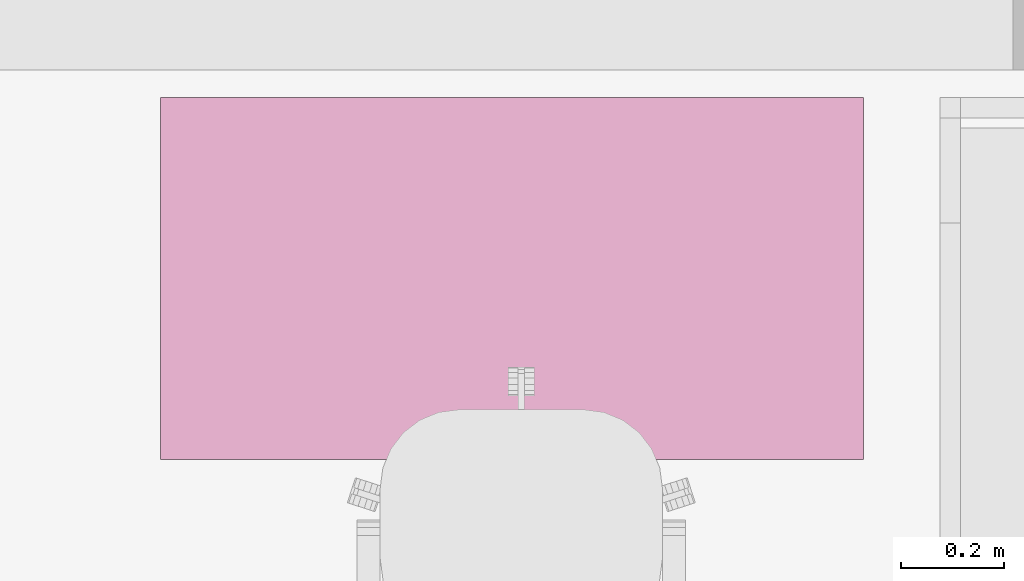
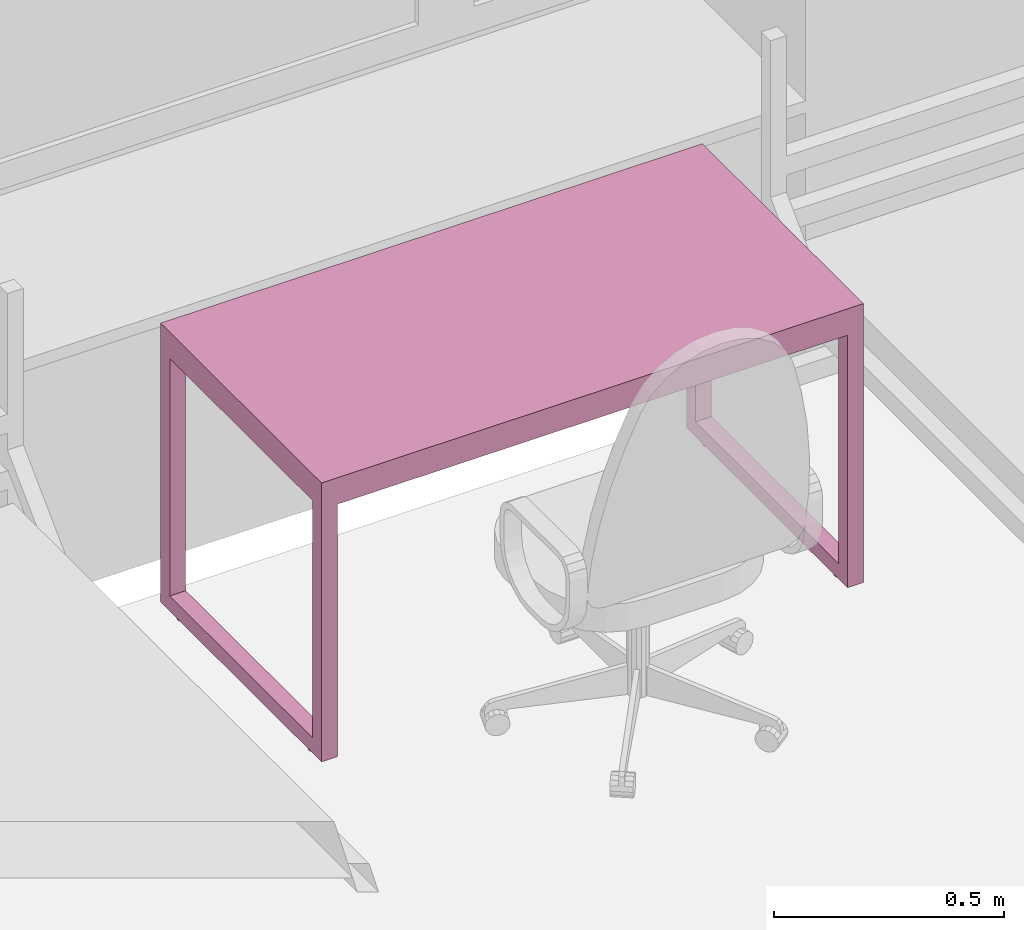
# One storey, part 48 of 48: 1 furnishing.
"""IFC2X3 building model written with IfcOpenShell, lengths in millimetres."""

from ifc_helpers import new_model, entity, si_unit, converted_unit, derived_unit, direction, frame, origin, place, context, subcontext, project, spatial, faceted_brep, source, transform, mapped, material, material_list, type_object, type_shapes, element, save


model = new_model("IFC2X3")

# Units and contexts
model_context = context("Model", 3, precision=0.01, world=origin(), true_north=direction((6.12303176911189e-17, 1.0)))
body_context = subcontext(model_context, "Body", "Model", "MODEL_VIEW")
ifc_project = project(units=[si_unit("LENGTHUNIT", "METRE", prefix="MILLI"), si_unit("AREAUNIT", "SQUARE_METRE"), si_unit("VOLUMEUNIT", "CUBIC_METRE"), converted_unit("PLANEANGLEUNIT", "DEGREE", entity("IfcRatioMeasure", 0.0174532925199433), si_unit("PLANEANGLEUNIT", "RADIAN"), dimensions=[0, 0, 0, 0, 0, 0, 0]), si_unit("MASSUNIT", "GRAM", prefix="KILO"), derived_unit("MASSDENSITYUNIT", [(si_unit("MASSUNIT", "GRAM", prefix="KILO"), 1), (si_unit("LENGTHUNIT", "METRE"), -3)]), si_unit("TIMEUNIT", "SECOND"), si_unit("FREQUENCYUNIT", "HERTZ"), si_unit("THERMODYNAMICTEMPERATUREUNIT", "DEGREE_CELSIUS"), derived_unit("THERMALTRANSMITTANCEUNIT", [(si_unit("MASSUNIT", "GRAM", prefix="KILO"), 1), (si_unit("THERMODYNAMICTEMPERATUREUNIT", "KELVIN"), -1), (si_unit("TIMEUNIT", "SECOND"), -3)]), derived_unit("VOLUMETRICFLOWRATEUNIT", [(si_unit("LENGTHUNIT", "METRE"), 3), (si_unit("TIMEUNIT", "SECOND"), -1)]), si_unit("ELECTRICCURRENTUNIT", "AMPERE"), si_unit("ELECTRICVOLTAGEUNIT", "VOLT"), si_unit("POWERUNIT", "WATT"), si_unit("FORCEUNIT", "NEWTON", prefix="KILO"), si_unit("ILLUMINANCEUNIT", "LUX"), si_unit("LUMINOUSFLUXUNIT", "LUMEN"), si_unit("LUMINOUSINTENSITYUNIT", "CANDELA"), derived_unit("USERDEFINED", [(si_unit("MASSUNIT", "GRAM", prefix="KILO"), -1), (si_unit("LENGTHUNIT", "METRE"), -2), (si_unit("TIMEUNIT", "SECOND"), 3), (si_unit("LUMINOUSFLUXUNIT", "LUMEN"), 1)]), derived_unit("LINEARVELOCITYUNIT", [(si_unit("LENGTHUNIT", "METRE"), 1), (si_unit("TIMEUNIT", "SECOND"), -1)]), si_unit("PRESSUREUNIT", "PASCAL"), derived_unit("USERDEFINED", [(si_unit("LENGTHUNIT", "METRE"), -2), (si_unit("MASSUNIT", "GRAM", prefix="KILO"), 1), (si_unit("TIMEUNIT", "SECOND"), -2)]), derived_unit("LINEARFORCEUNIT", [(si_unit("MASSUNIT", "GRAM", prefix="KILO"), 1), (si_unit("LENGTHUNIT", "METRE"), 1), (si_unit("TIMEUNIT", "SECOND"), -2), (si_unit("LENGTHUNIT", "METRE"), -1)]), derived_unit("PLANARFORCEUNIT", [(si_unit("MASSUNIT", "GRAM", prefix="KILO"), 1), (si_unit("LENGTHUNIT", "METRE"), 1), (si_unit("TIMEUNIT", "SECOND"), -2), (si_unit("LENGTHUNIT", "METRE"), -2)])], contexts=[model_context])

# Site, building, storey, space
site_placement = place(None, origin())
site = spatial("IfcSite", under=ifc_project, at=site_placement, Name="Default", CompositionType="ELEMENT")
building_placement = place(site_placement, origin())
building = spatial("IfcBuilding", under=site, at=building_placement, Name="SMA ARH", CompositionType="ELEMENT")
storey_placement = place(building_placement, frame((0.0, 0.0, 3300.0)))
storey = spatial("IfcBuildingStorey", under=building, at=storey_placement, Name="2 Korrus", CompositionType="ELEMENT", Elevation=3299.99999999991)
space_placement = place(storey_placement, origin())
space = spatial("IfcSpace", under=storey, at=space_placement, Name="2-31/1", CompositionType="ELEMENT", InteriorOrExteriorSpace="INTERNAL")

# Furnishing
ifc_material = material(Name="<Unnamed>")
ifc_material_list = material_list([ifc_material, ifc_material])
furniture_type = type_object("IfcFurnitureType", Name="kirjutuslaud 1360x700mm:kirjutuslaud 1360x700mm", material=ifc_material_list)
shared_shape = source(origin(), body_context, "Body", "Brep", [
    faceted_brep([(680.0, -350.0, 720.0), (680.0, 350.0, 720.0), (680.0, 350.0, 750.0), (680.0, -350.0, 750.0), (-680.0, -350.0, 720.0), (-680.0, -350.0, 750.0), (-680.0, 350.0, 750.0), (-680.0, 350.0, 720.0)], [[[0, 1, 2, 3]], [[4, 5, 6, 7]], [[1, 0, 4, 7]], [[2, 1, 7, 6]], [[3, 2, 6, 5]], [[0, 3, 5, 4]]]),
    faceted_brep([(-640.0, -310.0, 680.0), (-640.0, 310.0, 680.0), (-640.0, 310.0, 720.0), (-640.0, -310.0, 720.0), (-680.0, -350.0, 720.0), (-680.0, 350.0, 720.0), (-680.0, 350.0, 10.0), (-680.0, -350.0, 10.0), (-680.0, 310.0, 680.0), (-680.0, -310.0, 680.0), (-680.0, -310.0, 50.0), (-680.0, 310.0, 50.0), (-640.0, -350.0, 10.0), (-640.0, -350.0, 680.0), (640.0, -350.0, 680.0), (640.0, -350.0, 10.0), (680.0, -350.0, 10.0), (680.0, -350.0, 720.0), (-640.0, 350.0, 10.0), (680.0, 350.0, 720.0), (680.0, 350.0, 10.0), (640.0, 350.0, 10.0), (640.0, 350.0, 680.0), (-640.0, 350.0, 680.0), (640.0, 310.0, 720.0), (640.0, -310.0, 720.0), (-640.0, 310.0, 50.0), (-640.0, -310.0, 50.0), (640.0, -310.0, 680.0), (640.0, 310.0, 680.0), (680.0, 310.0, 680.0), (680.0, 310.0, 50.0), (680.0, -310.0, 50.0), (680.0, -310.0, 680.0), (640.0, -310.0, 50.0), (640.0, 310.0, 50.0)], [[[0, 1, 2, 3]], [[4, 5, 6, 7], [8, 9, 10, 11]], [[4, 7, 12, 13, 14, 15, 16, 17]], [[18, 12, 7, 6]], [[6, 5, 19, 20, 21, 22, 23, 18]], [[19, 5, 4, 17], [2, 24, 25, 3]], [[26, 1, 8, 11]], [[27, 26, 11, 10]], [[0, 27, 10, 9]], [[1, 0, 9, 8]], [[14, 13, 0, 28]], [[24, 2, 1, 29]], [[3, 25, 28, 0]], [[17, 16, 20, 19], [30, 31, 32, 33]], [[21, 15, 14, 28, 34, 35, 29, 22]], [[20, 16, 15, 21]], [[31, 30, 29, 35]], [[32, 31, 35, 34]], [[33, 32, 34, 28]], [[30, 33, 28, 29]], [[29, 28, 25, 24]], [[29, 1, 23, 22]], [[12, 18, 23, 1, 26, 27, 0, 13]]]),
    faceted_brep([(-663.729456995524, -270.466136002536, 0.0), (-659.847171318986, -269.955023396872, 0.0), (-655.964885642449, -270.466136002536, 0.0), (-652.347171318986, -271.964642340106, 0.0), (-649.240569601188, -274.348421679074, 0.0), (-646.85679026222, -277.455023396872, 0.0), (-645.35828392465, -281.072737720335, 0.0), (-644.847171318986, -284.955023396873, 0.0), (-645.35828392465, -288.83730907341, 0.0), (-646.85679026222, -292.455023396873, 0.0), (-649.240569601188, -295.561625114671, 0.0), (-652.347171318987, -297.945404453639, 0.0), (-655.964885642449, -299.443910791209, 0.0), (-659.847171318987, -299.955023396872, 0.0), (-663.729456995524, -299.443910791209, 0.0), (-667.347171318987, -297.945404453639, 0.0), (-670.453773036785, -295.561625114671, 0.0), (-672.837552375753, -292.455023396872, 0.0), (-674.336058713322, -288.83730907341, 0.0), (-674.847171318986, -284.955023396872, 0.0), (-674.336058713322, -281.072737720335, 0.0), (-672.837552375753, -277.455023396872, 0.0), (-670.453773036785, -274.348421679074, 0.0), (-667.347171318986, -271.964642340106, 0.0), (-655.964885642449, -299.443910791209, 10.0), (-652.347171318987, -297.945404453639, 10.0), (-649.240569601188, -295.561625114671, 10.0), (-646.85679026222, -292.455023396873, 10.0), (-645.35828392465, -288.83730907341, 10.0), (-644.847171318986, -284.955023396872, 10.0), (-645.35828392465, -281.072737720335, 10.0), (-646.85679026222, -277.455023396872, 10.0), (-649.240569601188, -274.348421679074, 10.0), (-652.347171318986, -271.964642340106, 10.0), (-655.964885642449, -270.466136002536, 10.0), (-659.847171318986, -269.955023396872, 10.0), (-663.729456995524, -270.466136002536, 10.0), (-667.347171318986, -271.964642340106, 10.0), (-670.453773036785, -274.348421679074, 10.0), (-672.837552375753, -277.455023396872, 10.0), (-674.336058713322, -281.072737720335, 10.0), (-674.847171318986, -284.955023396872, 10.0), (-674.336058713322, -288.83730907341, 10.0), (-672.837552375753, -292.455023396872, 10.0), (-670.453773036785, -295.561625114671, 10.0), (-667.347171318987, -297.945404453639, 10.0), (-663.729456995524, -299.443910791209, 10.0), (-659.847171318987, -299.955023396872, 10.0)], [[[0, 1, 2, 3, 4, 5, 6, 7, 8, 9, 10, 11, 12, 13, 14, 15, 16, 17, 18, 19, 20, 21, 22, 23]], [[24, 25, 26, 27, 28, 29, 30, 31, 32, 33, 34, 35, 36, 37, 38, 39, 40, 41, 42, 43, 44, 45, 46, 47]], [[18, 42, 41, 19]], [[17, 43, 42, 18]], [[45, 44, 16, 15]], [[17, 16, 44, 43]], [[46, 45, 15, 14]], [[47, 46, 14, 13]], [[12, 24, 47, 13]], [[11, 25, 24, 12]], [[27, 26, 10, 9]], [[11, 10, 26, 25]], [[28, 27, 9, 8]], [[29, 28, 8, 7]], [[6, 30, 29, 7]], [[5, 31, 30, 6]], [[33, 32, 4, 3]], [[5, 4, 32, 31]], [[34, 33, 3, 2]], [[35, 34, 2, 1]], [[0, 36, 35, 1]], [[23, 37, 36, 0]], [[39, 38, 22, 21]], [[23, 22, 38, 37]], [[40, 39, 21, 20]], [[41, 40, 20, 19]]]),
    faceted_brep([(-655.964885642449, 270.466136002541, 10.0), (-652.347171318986, 271.964642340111, 10.0), (-649.240569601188, 274.348421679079, 10.0), (-646.85679026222, 277.455023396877, 10.0), (-645.35828392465, 281.07273772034, 10.0), (-644.847171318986, 284.955023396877, 10.0), (-645.35828392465, 288.837309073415, 10.0), (-646.85679026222, 292.455023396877, 10.0), (-649.240569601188, 295.561625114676, 10.0), (-652.347171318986, 297.945404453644, 10.0), (-655.964885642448, 299.443910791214, 10.0), (-659.847171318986, 299.955023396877, 10.0), (-663.729456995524, 299.443910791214, 10.0), (-667.347171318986, 297.945404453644, 10.0), (-670.453773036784, 295.561625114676, 10.0), (-672.837552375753, 292.455023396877, 10.0), (-674.336058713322, 288.837309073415, 10.0), (-674.847171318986, 284.955023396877, 10.0), (-674.336058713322, 281.07273772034, 10.0), (-672.837552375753, 277.455023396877, 10.0), (-670.453773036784, 274.348421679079, 10.0), (-667.347171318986, 271.964642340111, 10.0), (-663.729456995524, 270.466136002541, 10.0), (-659.847171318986, 269.955023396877, 10.0), (-655.964885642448, 299.443910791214, 0.0), (-652.347171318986, 297.945404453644, 0.0), (-649.240569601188, 295.561625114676, 0.0), (-646.85679026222, 292.455023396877, 0.0), (-645.35828392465, 288.837309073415, 0.0), (-644.847171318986, 284.955023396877, 0.0), (-645.35828392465, 281.07273772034, 0.0), (-646.85679026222, 277.455023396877, 0.0), (-649.240569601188, 274.348421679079, 0.0), (-652.347171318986, 271.964642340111, 0.0), (-655.964885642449, 270.466136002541, 0.0), (-659.847171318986, 269.955023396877, 0.0), (-663.729456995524, 270.466136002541, 0.0), (-667.347171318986, 271.964642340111, 0.0), (-670.453773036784, 274.348421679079, 0.0), (-672.837552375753, 277.455023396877, 0.0), (-674.336058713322, 281.07273772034, 0.0), (-674.847171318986, 284.955023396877, 0.0), (-674.336058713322, 288.837309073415, 0.0), (-672.837552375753, 292.455023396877, 0.0), (-670.453773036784, 295.561625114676, 0.0), (-667.347171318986, 297.945404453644, 0.0), (-663.729456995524, 299.443910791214, 0.0), (-659.847171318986, 299.955023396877, 0.0)], [[[0, 1, 2, 3, 4, 5, 6, 7, 8, 9, 10, 11, 12, 13, 14, 15, 16, 17, 18, 19, 20, 21, 22, 23]], [[24, 25, 26, 27, 28, 29, 30, 31, 32, 33, 34, 35, 36, 37, 38, 39, 40, 41, 42, 43, 44, 45, 46, 47]], [[40, 18, 17, 41]], [[39, 19, 18, 40]], [[21, 20, 38, 37]], [[39, 38, 20, 19]], [[22, 21, 37, 36]], [[23, 22, 36, 35]], [[34, 0, 23, 35]], [[33, 1, 0, 34]], [[3, 2, 32, 31]], [[33, 32, 2, 1]], [[4, 3, 31, 30]], [[5, 4, 30, 29]], [[28, 6, 5, 29]], [[27, 7, 6, 28]], [[9, 8, 26, 25]], [[27, 26, 8, 7]], [[10, 9, 25, 24]], [[11, 10, 24, 47]], [[46, 12, 11, 47]], [[45, 13, 12, 46]], [[15, 14, 44, 43]], [[45, 44, 14, 13]], [[16, 15, 43, 42]], [[17, 16, 42, 41]]]),
    faceted_brep([(656.270543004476, -270.466136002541, 0.0), (660.152828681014, -269.955023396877, 0.0), (664.035114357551, -270.466136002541, 0.0), (667.652828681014, -271.96464234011, 0.0), (670.759430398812, -274.348421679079, 0.0), (673.14320973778, -277.455023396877, 0.0), (674.64171607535, -281.072737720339, 0.0), (675.152828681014, -284.955023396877, 0.0), (674.64171607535, -288.837309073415, 0.0), (673.14320973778, -292.455023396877, 0.0), (670.759430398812, -295.561625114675, 0.0), (667.652828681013, -297.945404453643, 0.0), (664.035114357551, -299.443910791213, 0.0), (660.152828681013, -299.955023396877, 0.0), (656.270543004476, -299.443910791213, 0.0), (652.652828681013, -297.945404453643, 0.0), (649.546226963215, -295.561625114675, 0.0), (647.162447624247, -292.455023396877, 0.0), (645.663941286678, -288.837309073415, 0.0), (645.152828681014, -284.955023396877, 0.0), (645.663941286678, -281.072737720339, 0.0), (647.162447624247, -277.455023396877, 0.0), (649.546226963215, -274.348421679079, 0.0), (652.652828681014, -271.96464234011, 0.0), (664.035114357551, -299.443910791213, 10.0), (667.652828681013, -297.945404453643, 10.0), (670.759430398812, -295.561625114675, 10.0), (673.14320973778, -292.455023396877, 10.0), (674.64171607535, -288.837309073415, 10.0), (675.152828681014, -284.955023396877, 10.0), (674.64171607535, -281.072737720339, 10.0), (673.14320973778, -277.455023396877, 10.0), (670.759430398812, -274.348421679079, 10.0), (667.652828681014, -271.96464234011, 10.0), (664.035114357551, -270.466136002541, 10.0), (660.152828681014, -269.955023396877, 10.0), (656.270543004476, -270.466136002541, 10.0), (652.652828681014, -271.96464234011, 10.0), (649.546226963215, -274.348421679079, 10.0), (647.162447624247, -277.455023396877, 10.0), (645.663941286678, -281.072737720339, 10.0), (645.152828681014, -284.955023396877, 10.0), (645.663941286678, -288.837309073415, 10.0), (647.162447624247, -292.455023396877, 10.0), (649.546226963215, -295.561625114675, 10.0), (652.652828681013, -297.945404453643, 10.0), (656.270543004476, -299.443910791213, 10.0), (660.152828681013, -299.955023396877, 10.0)], [[[0, 1, 2, 3, 4, 5, 6, 7, 8, 9, 10, 11, 12, 13, 14, 15, 16, 17, 18, 19, 20, 21, 22, 23]], [[24, 25, 26, 27, 28, 29, 30, 31, 32, 33, 34, 35, 36, 37, 38, 39, 40, 41, 42, 43, 44, 45, 46, 47]], [[18, 42, 41, 19]], [[17, 43, 42, 18]], [[45, 44, 16, 15]], [[17, 16, 44, 43]], [[46, 45, 15, 14]], [[47, 46, 14, 13]], [[12, 24, 47, 13]], [[11, 25, 24, 12]], [[27, 26, 10, 9]], [[11, 10, 26, 25]], [[28, 27, 9, 8]], [[29, 28, 8, 7]], [[6, 30, 29, 7]], [[5, 31, 30, 6]], [[33, 32, 4, 3]], [[5, 4, 32, 31]], [[34, 33, 3, 2]], [[35, 34, 2, 1]], [[0, 36, 35, 1]], [[23, 37, 36, 0]], [[39, 38, 22, 21]], [[23, 22, 38, 37]], [[40, 39, 21, 20]], [[41, 40, 20, 19]]]),
    faceted_brep([(664.035114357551, 270.466136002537, 10.0), (667.652828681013, 271.964642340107, 10.0), (670.759430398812, 274.348421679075, 10.0), (673.14320973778, 277.455023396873, 10.0), (674.64171607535, 281.072737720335, 10.0), (675.152828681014, 284.955023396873, 10.0), (674.64171607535, 288.837309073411, 10.0), (673.14320973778, 292.455023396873, 10.0), (670.759430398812, 295.561625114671, 10.0), (667.652828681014, 297.94540445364, 10.0), (664.035114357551, 299.443910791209, 10.0), (660.152828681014, 299.955023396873, 10.0), (656.270543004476, 299.443910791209, 10.0), (652.652828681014, 297.94540445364, 10.0), (649.546226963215, 295.561625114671, 10.0), (647.162447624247, 292.455023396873, 10.0), (645.663941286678, 288.837309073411, 10.0), (645.152828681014, 284.955023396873, 10.0), (645.663941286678, 281.072737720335, 10.0), (647.162447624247, 277.455023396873, 10.0), (649.546226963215, 274.348421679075, 10.0), (652.652828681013, 271.964642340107, 10.0), (656.270543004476, 270.466136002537, 10.0), (660.152828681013, 269.955023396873, 10.0), (664.035114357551, 299.443910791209, 0.0), (667.652828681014, 297.94540445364, 0.0), (670.759430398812, 295.561625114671, 0.0), (673.14320973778, 292.455023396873, 0.0), (674.64171607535, 288.837309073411, 0.0), (675.152828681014, 284.955023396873, 0.0), (674.64171607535, 281.072737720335, 0.0), (673.14320973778, 277.455023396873, 0.0), (670.759430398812, 274.348421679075, 0.0), (667.652828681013, 271.964642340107, 0.0), (664.035114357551, 270.466136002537, 0.0), (660.152828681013, 269.955023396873, 0.0), (656.270543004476, 270.466136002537, 0.0), (652.652828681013, 271.964642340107, 0.0), (649.546226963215, 274.348421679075, 0.0), (647.162447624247, 277.455023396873, 0.0), (645.663941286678, 281.072737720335, 0.0), (645.152828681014, 284.955023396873, 0.0), (645.663941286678, 288.837309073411, 0.0), (647.162447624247, 292.455023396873, 0.0), (649.546226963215, 295.561625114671, 0.0), (652.652828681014, 297.94540445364, 0.0), (656.270543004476, 299.443910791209, 0.0), (660.152828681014, 299.955023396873, 0.0)], [[[0, 1, 2, 3, 4, 5, 6, 7, 8, 9, 10, 11, 12, 13, 14, 15, 16, 17, 18, 19, 20, 21, 22, 23]], [[24, 25, 26, 27, 28, 29, 30, 31, 32, 33, 34, 35, 36, 37, 38, 39, 40, 41, 42, 43, 44, 45, 46, 47]], [[40, 18, 17, 41]], [[39, 19, 18, 40]], [[21, 20, 38, 37]], [[39, 38, 20, 19]], [[22, 21, 37, 36]], [[23, 22, 36, 35]], [[34, 0, 23, 35]], [[33, 1, 0, 34]], [[3, 2, 32, 31]], [[33, 32, 2, 1]], [[4, 3, 31, 30]], [[5, 4, 30, 29]], [[28, 6, 5, 29]], [[27, 7, 6, 28]], [[9, 8, 26, 25]], [[27, 26, 8, 7]], [[10, 9, 25, 24]], [[11, 10, 24, 47]], [[46, 12, 11, 47]], [[45, 13, 12, 46]], [[15, 14, 44, 43]], [[45, 44, 14, 13]], [[16, 15, 43, 42]], [[17, 16, 42, 41]]]),
])
type_shapes(furniture_type, [shared_shape])
furnishing_placement = place(space_placement, frame((36610.6075367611, 12096.686384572, 0.0)))
element("IfcFurnishingElement", 1, at=furnishing_placement, inside=space, type_object=furniture_type, Name="kirjutuslaud 1360x700mm:kirjutuslaud 1360x700mm", ObjectType="kirjutuslaud 1360x700mm:kirjutuslaud 1360x700mm", context=body_context, shape_type="MappedRepresentation", body=[
    mapped(shared_shape, transform((0.0, 0.0, 0.0), scale=1.0)),
])

save(model, "model.ifc")
